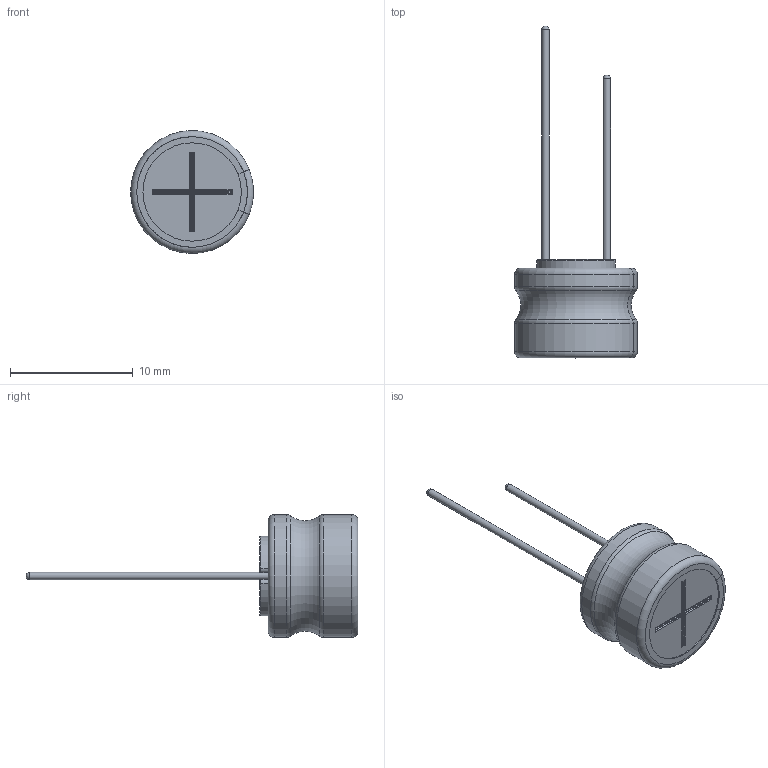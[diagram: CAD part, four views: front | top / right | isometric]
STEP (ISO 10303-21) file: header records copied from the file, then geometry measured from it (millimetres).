
FILE_DESCRIPTION(/* description */ (''),/* implementation_level */ '2;1');
FILE_NAME(/* name */ '10x8_Lead.stp',/* time_stamp */ '2017-09-01T16:01:10+09:00',/* author */ (''),/* organization */ (''),/* preprocessor_version */ 'ST-DEVELOPER v16',/* originating_system */ 'SIEMENS PLM Software NX 11.0',/* authorisation */ '');
FILE_SCHEMA (('AUTOMOTIVE_DESIGN { 1 0 10303 214 3 1 1 1 }'));
Length unit declared in the file: millimetre
Products named in the file (1): 10x8_Lead
Bounding box: 9.99 x 27 x 10 mm (x, y, z)
Volume: 567.3 mm3; surface area: 986.2 mm2
Topology: 3 solids, 3 shells, 115 faces, 288 edges, 181 vertices
Faces by surface type: cylinder 44, torus 33, plane 28, sphere 6, bspline 4
Full cylindrical faces by diameter (mm): 0.6 x2, 9.8 x2
Entity records: 4020 total; most frequent: CARTESIAN_POINT 680, DIRECTION 664, ORIENTED_EDGE 544, AXIS2_PLACEMENT_3D 280, EDGE_CURVE 272, VERTEX_POINT 176, CIRCLE 160, EDGE_LOOP 128
